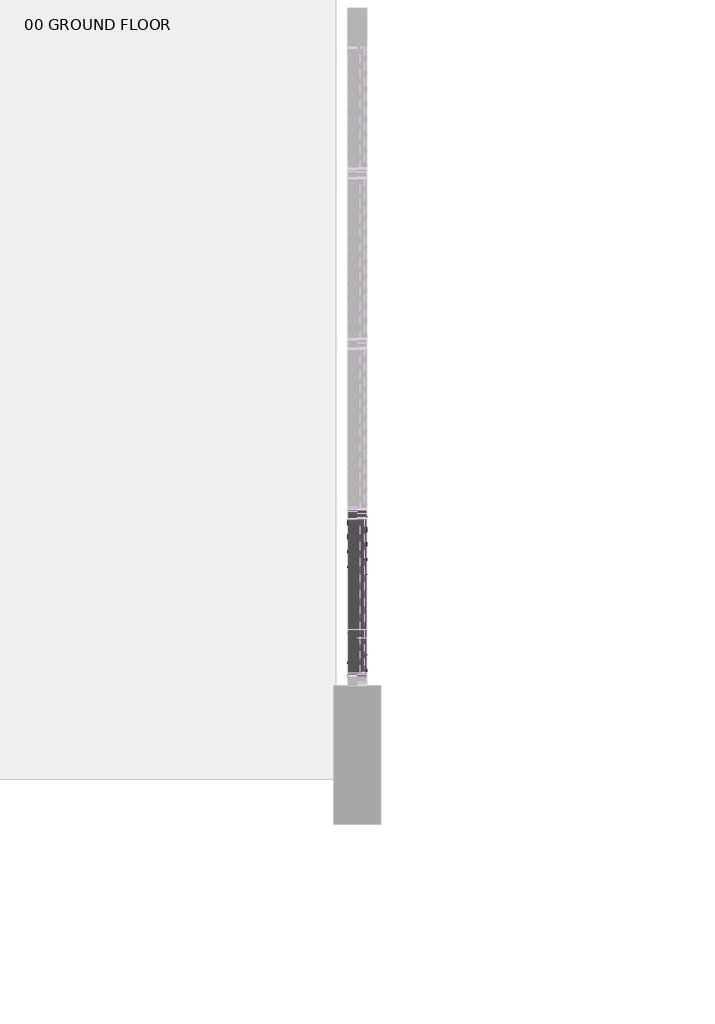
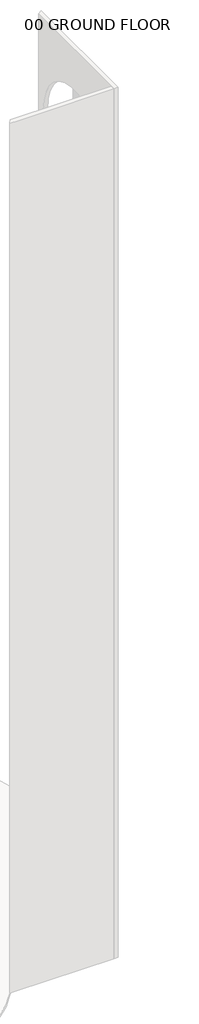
# One storey, part 15 of 33: 81 members, 48 plates.
"""IFC4 building model written with IfcOpenShell, lengths in millimetres."""

from ifc_helpers import new_model, si_unit, origin, place, context, project, spatial, transform, mapped, element, save
from components import member_14f97ceb, member_c70f70ef, member_2b49869a, system_panel_glazed_b0e4ebfd, system_panel_glazed_21ccd27a

model = new_model("IFC4")

# Units and contexts
model_context = context("Model", 3, world=origin())
ifc_project = project(units=[si_unit("LENGTHUNIT", "METRE", prefix="MILLI")], contexts=[model_context])

# Site, building, storey
site = spatial("IfcSite", under=ifc_project)
building = spatial("IfcBuilding", under=site)
storey = spatial("IfcBuildingStorey", under=building, Name="00 GROUND FLOOR", Elevation=0.0)

# Members
placement = place(None, origin())
member_shape = member_14f97ceb(model_context)
element("IfcMember", 1, ObjectType="Rectangular Mullion : 2.5\" x 5\" rectangular", at=placement, inside=storey, context=model_context, shape_type="MappedRepresentation", body=[
    mapped(member_shape, transform((44184.4050515, 1929.0392859, 0.0), x_axis=(0.0, 0.0, -1.0), y_axis=(1.0, 0.0, 0.0), z_axis=(0.0, -1.0, 0.0))),
])
member_2_shape = member_c70f70ef(model_context)
element("IfcMember", 2, ObjectType="Rectangular Mullion : 2.5\" x 5\" rectangular", at=placement, inside=storey, context=model_context, shape_type="MappedRepresentation", body=[
    mapped(member_2_shape, transform((44184.4050515, 1865.5392859, 1219.2), x_axis=(0.0, 0.0, 1.0), y_axis=(1.0, 0.0, 0.0), z_axis=(0.0, 1.0, 0.0))),
])
element("IfcMember", 3, ObjectType="Rectangular Mullion : 2.5\" x 5\" rectangular", at=placement, inside=storey, context=model_context, shape_type="MappedRepresentation", body=[
    mapped(member_2_shape, transform((44184.4050515, 1865.5392859, 2438.4), x_axis=(0.0, 0.0, 1.0), y_axis=(1.0, 0.0, 0.0), z_axis=(0.0, 1.0, 0.0))),
])
element("IfcMember", 4, ObjectType="Rectangular Mullion : 2.5\" x 5\" rectangular", at=placement, inside=storey, context=model_context, shape_type="MappedRepresentation", body=[
    mapped(member_2_shape, transform((44184.4050515, 1865.5392859, 3657.6), x_axis=(0.0, 0.0, 1.0), y_axis=(1.0, 0.0, 0.0), z_axis=(0.0, 1.0, 0.0))),
])
element("IfcMember", 5, ObjectType="Rectangular Mullion : 2.5\" x 5\" rectangular", at=placement, inside=storey, context=model_context, shape_type="MappedRepresentation", body=[
    mapped(member_2_shape, transform((44184.4050515, 1865.5392859, 4876.8), x_axis=(0.0, 0.0, 1.0), y_axis=(1.0, 0.0, 0.0), z_axis=(0.0, 1.0, 0.0))),
])
element("IfcMember", 6, ObjectType="Rectangular Mullion : 2.5\" x 5\" rectangular", at=placement, inside=storey, context=model_context, shape_type="MappedRepresentation", body=[
    mapped(member_2_shape, transform((44184.4050515, 1865.5392859, 6096.0), x_axis=(0.0, 0.0, 1.0), y_axis=(1.0, 0.0, 0.0), z_axis=(0.0, 1.0, 0.0))),
])
element("IfcMember", 7, ObjectType="Rectangular Mullion : 2.5\" x 5\" rectangular", at=placement, inside=storey, context=model_context, shape_type="MappedRepresentation", body=[
    mapped(member_2_shape, transform((44184.4050515, 1865.5392859, 7315.2), x_axis=(0.0, 0.0, 1.0), y_axis=(1.0, 0.0, 0.0), z_axis=(0.0, 1.0, 0.0))),
])
element("IfcMember", 8, ObjectType="Rectangular Mullion : 2.5\" x 5\" rectangular", at=placement, inside=storey, context=model_context, shape_type="MappedRepresentation", body=[
    mapped(member_2_shape, transform((44184.4050515, 1865.5392859, 8534.4), x_axis=(0.0, 0.0, 1.0), y_axis=(1.0, 0.0, 0.0), z_axis=(0.0, 1.0, 0.0))),
])
element("IfcMember", 9, ObjectType="Rectangular Mullion : 2.5\" x 5\" rectangular", at=placement, inside=storey, context=model_context, shape_type="MappedRepresentation", body=[
    mapped(member_2_shape, transform((44184.4050515, 1865.5392859, 9753.6), x_axis=(0.0, 0.0, 1.0), y_axis=(1.0, 0.0, 0.0), z_axis=(0.0, 1.0, 0.0))),
])
element("IfcMember", 10, ObjectType="Rectangular Mullion : 2.5\" x 5\" rectangular", at=placement, inside=storey, context=model_context, shape_type="MappedRepresentation", body=[
    mapped(member_2_shape, transform((44184.4050515, 1865.5392859, 10972.8), x_axis=(0.0, 0.0, 1.0), y_axis=(1.0, 0.0, 0.0), z_axis=(0.0, 1.0, 0.0))),
])
element("IfcMember", 11, ObjectType="Rectangular Mullion : 2.5\" x 5\" rectangular", at=placement, inside=storey, context=model_context, shape_type="MappedRepresentation", body=[
    mapped(member_2_shape, transform((44184.4050515, 1865.5392859, 12192.0), x_axis=(0.0, 0.0, 1.0), y_axis=(1.0, 0.0, 0.0), z_axis=(0.0, 1.0, 0.0))),
])
element("IfcMember", 12, ObjectType="Rectangular Mullion : 2.5\" x 5\" rectangular", at=placement, inside=storey, context=model_context, shape_type="MappedRepresentation", body=[
    mapped(member_2_shape, transform((44184.4050515, 1865.5392859, 13411.2), x_axis=(0.0, 0.0, 1.0), y_axis=(1.0, 0.0, 0.0), z_axis=(0.0, 1.0, 0.0))),
])
element("IfcMember", 13, ObjectType="Rectangular Mullion : 2.5\" x 5\" rectangular", at=placement, inside=storey, context=model_context, shape_type="MappedRepresentation", body=[
    mapped(member_2_shape, transform((44184.4050515, 1865.5392859, 14630.4), x_axis=(0.0, 0.0, 1.0), y_axis=(1.0, 0.0, 0.0), z_axis=(0.0, 1.0, 0.0))),
])
element("IfcMember", 14, ObjectType="Rectangular Mullion : 2.5\" x 5\" rectangular", at=placement, inside=storey, context=model_context, shape_type="MappedRepresentation", body=[
    mapped(member_2_shape, transform((44184.4050515, 1865.5392859, 15849.6), x_axis=(0.0, 0.0, 1.0), y_axis=(1.0, 0.0, 0.0), z_axis=(0.0, 1.0, 0.0))),
])
element("IfcMember", 15, ObjectType="Rectangular Mullion : 2.5\" x 5\" rectangular", at=placement, inside=storey, context=model_context, shape_type="MappedRepresentation", body=[
    mapped(member_2_shape, transform((44184.4050515, 1865.5392859, 17068.8), x_axis=(0.0, 0.0, 1.0), y_axis=(1.0, 0.0, 0.0), z_axis=(0.0, 1.0, 0.0))),
])
element("IfcMember", 16, ObjectType="Rectangular Mullion : 2.5\" x 5\" rectangular", at=placement, inside=storey, context=model_context, shape_type="MappedRepresentation", body=[
    mapped(member_2_shape, transform((44184.4050515, 1865.5392859, 18288.0), x_axis=(0.0, 0.0, 1.0), y_axis=(1.0, 0.0, 0.0), z_axis=(0.0, 1.0, 0.0))),
])
element("IfcMember", 17, ObjectType="Rectangular Mullion : 2.5\" x 5\" rectangular", at=placement, inside=storey, context=model_context, shape_type="MappedRepresentation", body=[
    mapped(member_2_shape, transform((44184.4050515, 1865.5392859, 19507.2), x_axis=(0.0, 0.0, 1.0), y_axis=(1.0, 0.0, 0.0), z_axis=(0.0, 1.0, 0.0))),
])
element("IfcMember", 18, ObjectType="Rectangular Mullion : 2.5\" x 5\" rectangular", at=placement, inside=storey, context=model_context, shape_type="MappedRepresentation", body=[
    mapped(member_2_shape, transform((44184.4050515, 1865.5392859, 20726.4), x_axis=(0.0, 0.0, 1.0), y_axis=(1.0, 0.0, 0.0), z_axis=(0.0, 1.0, 0.0))),
])
element("IfcMember", 19, ObjectType="Rectangular Mullion : 2.5\" x 5\" rectangular", at=placement, inside=storey, context=model_context, shape_type="MappedRepresentation", body=[
    mapped(member_2_shape, transform((44184.4050515, 1865.5392859, 21945.6), x_axis=(0.0, 0.0, 1.0), y_axis=(1.0, 0.0, 0.0), z_axis=(0.0, 1.0, 0.0))),
])
element("IfcMember", 20, ObjectType="Rectangular Mullion : 2.5\" x 5\" rectangular", at=placement, inside=storey, context=model_context, shape_type="MappedRepresentation", body=[
    mapped(member_2_shape, transform((44184.4050515, 1865.5392859, 23164.8), x_axis=(0.0, 0.0, 1.0), y_axis=(1.0, 0.0, 0.0), z_axis=(0.0, 1.0, 0.0))),
])
element("IfcMember", 21, ObjectType="Rectangular Mullion : 2.5\" x 5\" rectangular", at=placement, inside=storey, context=model_context, shape_type="MappedRepresentation", body=[
    mapped(member_2_shape, transform((44184.4050515, 1865.5392859, 24384.0), x_axis=(0.0, 0.0, 1.0), y_axis=(1.0, 0.0, 0.0), z_axis=(0.0, 1.0, 0.0))),
])
element("IfcMember", 22, ObjectType="Rectangular Mullion : 2.5\" x 5\" rectangular", at=placement, inside=storey, context=model_context, shape_type="MappedRepresentation", body=[
    mapped(member_2_shape, transform((44184.4050515, 1865.5392859, 25603.2), x_axis=(0.0, 0.0, 1.0), y_axis=(1.0, 0.0, 0.0), z_axis=(0.0, 1.0, 0.0))),
])
element("IfcMember", 23, ObjectType="Rectangular Mullion : 2.5\" x 5\" rectangular", at=placement, inside=storey, context=model_context, shape_type="MappedRepresentation", body=[
    mapped(member_2_shape, transform((44184.4050515, 1865.5392859, 26822.4), x_axis=(0.0, 0.0, 1.0), y_axis=(1.0, 0.0, 0.0), z_axis=(0.0, 1.0, 0.0))),
])
element("IfcMember", 24, ObjectType="Rectangular Mullion : 2.5\" x 5\" rectangular", at=placement, inside=storey, context=model_context, shape_type="MappedRepresentation", body=[
    mapped(member_2_shape, transform((44184.4050515, 1865.5392859, 28041.6), x_axis=(0.0, 0.0, 1.0), y_axis=(1.0, 0.0, 0.0), z_axis=(0.0, 1.0, 0.0))),
])
element("IfcMember", 25, ObjectType="Rectangular Mullion : 2.5\" x 5\" rectangular", at=placement, inside=storey, context=model_context, shape_type="MappedRepresentation", body=[
    mapped(member_2_shape, transform((44184.4050515, 1865.5392859, 29260.8), x_axis=(0.0, 0.0, 1.0), y_axis=(1.0, 0.0, 0.0), z_axis=(0.0, 1.0, 0.0))),
])
element("IfcMember", 26, ObjectType="Rectangular Mullion : 2.5\" x 5\" rectangular", at=placement, inside=storey, context=model_context, shape_type="MappedRepresentation", body=[
    mapped(member_2_shape, transform((44184.4050515, 1865.5392859, 30480.0), x_axis=(0.0, 0.0, 1.0), y_axis=(1.0, 0.0, 0.0), z_axis=(0.0, 1.0, 0.0))),
])
element("IfcMember", 27, ObjectType="Rectangular Mullion : 2.5\" x 5\" rectangular", at=placement, inside=storey, context=model_context, shape_type="MappedRepresentation", body=[
    mapped(member_2_shape, transform((44184.4050515, 1865.5392859, 31699.2), x_axis=(0.0, 0.0, 1.0), y_axis=(1.0, 0.0, 0.0), z_axis=(0.0, 1.0, 0.0))),
])
element("IfcMember", 28, ObjectType="Rectangular Mullion : 2.5\" x 5\" rectangular", at=placement, inside=storey, context=model_context, shape_type="MappedRepresentation", body=[
    mapped(member_2_shape, transform((44184.4050515, 1865.5392859, 32918.4), x_axis=(0.0, 0.0, 1.0), y_axis=(1.0, 0.0, 0.0), z_axis=(0.0, 1.0, 0.0))),
])
element("IfcMember", 29, ObjectType="Rectangular Mullion : 2.5\" x 5\" rectangular", at=placement, inside=storey, context=model_context, shape_type="MappedRepresentation", body=[
    mapped(member_2_shape, transform((44184.4050515, 1865.5392859, 34137.6), x_axis=(0.0, 0.0, 1.0), y_axis=(1.0, 0.0, 0.0), z_axis=(0.0, 1.0, 0.0))),
])
element("IfcMember", 30, ObjectType="Rectangular Mullion : 2.5\" x 5\" rectangular", at=placement, inside=storey, context=model_context, shape_type="MappedRepresentation", body=[
    mapped(member_2_shape, transform((44184.4050515, 1865.5392859, 35356.8), x_axis=(0.0, 0.0, 1.0), y_axis=(1.0, 0.0, 0.0), z_axis=(0.0, 1.0, 0.0))),
])
element("IfcMember", 31, ObjectType="Rectangular Mullion : 2.5\" x 5\" rectangular", at=placement, inside=storey, context=model_context, shape_type="MappedRepresentation", body=[
    mapped(member_2_shape, transform((44184.4050515, 1865.5392859, 36576.0), x_axis=(0.0, 0.0, 1.0), y_axis=(1.0, 0.0, 0.0), z_axis=(0.0, 1.0, 0.0))),
])
element("IfcMember", 32, ObjectType="Rectangular Mullion : 2.5\" x 5\" rectangular", at=placement, inside=storey, context=model_context, shape_type="MappedRepresentation", body=[
    mapped(member_2_shape, transform((44184.4050515, 1865.5392859, 37795.2), x_axis=(0.0, 0.0, 1.0), y_axis=(1.0, 0.0, 0.0), z_axis=(0.0, 1.0, 0.0))),
])
element("IfcMember", 33, ObjectType="Rectangular Mullion : 2.5\" x 5\" rectangular", at=placement, inside=storey, context=model_context, shape_type="MappedRepresentation", body=[
    mapped(member_2_shape, transform((44184.4050515, 1865.5392859, 39014.4), x_axis=(0.0, 0.0, 1.0), y_axis=(1.0, 0.0, 0.0), z_axis=(0.0, 1.0, 0.0))),
])
element("IfcMember", 34, ObjectType="Rectangular Mullion : 2.5\" x 5\" rectangular", at=placement, inside=storey, context=model_context, shape_type="MappedRepresentation", body=[
    mapped(member_2_shape, transform((44184.4050515, 1865.5392859, 40233.6), x_axis=(0.0, 0.0, 1.0), y_axis=(1.0, 0.0, 0.0), z_axis=(0.0, 1.0, 0.0))),
])
element("IfcMember", 35, ObjectType="Rectangular Mullion : 2.5\" x 5\" rectangular", at=placement, inside=storey, context=model_context, shape_type="MappedRepresentation", body=[
    mapped(member_2_shape, transform((44184.4050515, 1865.5392859, 41452.8), x_axis=(0.0, 0.0, 1.0), y_axis=(1.0, 0.0, 0.0), z_axis=(0.0, 1.0, 0.0))),
])
element("IfcMember", 36, ObjectType="Rectangular Mullion : 2.5\" x 5\" rectangular", at=placement, inside=storey, context=model_context, shape_type="MappedRepresentation", body=[
    mapped(member_2_shape, transform((44184.4050515, 1865.5392859, 42672.0), x_axis=(0.0, 0.0, 1.0), y_axis=(1.0, 0.0, 0.0), z_axis=(0.0, 1.0, 0.0))),
])
element("IfcMember", 37, ObjectType="Rectangular Mullion : 2.5\" x 5\" rectangular", at=placement, inside=storey, context=model_context, shape_type="MappedRepresentation", body=[
    mapped(member_2_shape, transform((44184.4050515, 1865.5392859, 43891.2), x_axis=(0.0, 0.0, 1.0), y_axis=(1.0, 0.0, 0.0), z_axis=(0.0, 1.0, 0.0))),
])
element("IfcMember", 38, ObjectType="Rectangular Mullion : 2.5\" x 5\" rectangular", at=placement, inside=storey, context=model_context, shape_type="MappedRepresentation", body=[
    mapped(member_2_shape, transform((44184.4050515, 1865.5392859, 45110.4), x_axis=(0.0, 0.0, 1.0), y_axis=(1.0, 0.0, 0.0), z_axis=(0.0, 1.0, 0.0))),
])
member_3_shape = member_2b49869a(model_context)
element("IfcMember", 39, ObjectType="Rectangular Mullion : 2.5\" x 5\" rectangular", at=placement, inside=storey, context=model_context, shape_type="MappedRepresentation", body=[
    mapped(member_3_shape, transform((44184.4050515, 1897.2892859, 0.0), x_axis=(0.0, 1.0, 0.0), y_axis=(1.0, 0.0, 0.0), z_axis=(0.0, 0.0, -1.0))),
])
element("IfcMember", 40, ObjectType="Rectangular Mullion : 2.5\" x 5\" rectangular", at=placement, inside=storey, context=model_context, shape_type="MappedRepresentation", body=[
    mapped(member_3_shape, transform((44184.4050515, 1897.2892859, 1219.2), x_axis=(0.0, 1.0, 0.0), y_axis=(1.0, 0.0, 0.0), z_axis=(0.0, 0.0, -1.0))),
])
element("IfcMember", 41, ObjectType="Rectangular Mullion : 2.5\" x 5\" rectangular", at=placement, inside=storey, context=model_context, shape_type="MappedRepresentation", body=[
    mapped(member_3_shape, transform((44184.4050515, 1897.2892859, 2438.4), x_axis=(0.0, 1.0, 0.0), y_axis=(1.0, 0.0, 0.0), z_axis=(0.0, 0.0, -1.0))),
])
element("IfcMember", 42, ObjectType="Rectangular Mullion : 2.5\" x 5\" rectangular", at=placement, inside=storey, context=model_context, shape_type="MappedRepresentation", body=[
    mapped(member_3_shape, transform((44184.4050515, 1897.2892859, 3657.6), x_axis=(0.0, 1.0, 0.0), y_axis=(1.0, 0.0, 0.0), z_axis=(0.0, 0.0, -1.0))),
])
element("IfcMember", 43, ObjectType="Rectangular Mullion : 2.5\" x 5\" rectangular", at=placement, inside=storey, context=model_context, shape_type="MappedRepresentation", body=[
    mapped(member_3_shape, transform((44184.4050515, 1897.2892859, 4876.8), x_axis=(0.0, 1.0, 0.0), y_axis=(1.0, 0.0, 0.0), z_axis=(0.0, 0.0, -1.0))),
])
element("IfcMember", 44, ObjectType="Rectangular Mullion : 2.5\" x 5\" rectangular", at=placement, inside=storey, context=model_context, shape_type="MappedRepresentation", body=[
    mapped(member_3_shape, transform((44184.4050515, 1897.2892859, 6096.0), x_axis=(0.0, 1.0, 0.0), y_axis=(1.0, 0.0, 0.0), z_axis=(0.0, 0.0, -1.0))),
])
element("IfcMember", 45, ObjectType="Rectangular Mullion : 2.5\" x 5\" rectangular", at=placement, inside=storey, context=model_context, shape_type="MappedRepresentation", body=[
    mapped(member_3_shape, transform((44184.4050515, 1897.2892859, 7315.2), x_axis=(0.0, 1.0, 0.0), y_axis=(1.0, 0.0, 0.0), z_axis=(0.0, 0.0, -1.0))),
])
element("IfcMember", 46, ObjectType="Rectangular Mullion : 2.5\" x 5\" rectangular", at=placement, inside=storey, context=model_context, shape_type="MappedRepresentation", body=[
    mapped(member_3_shape, transform((44184.4050515, 1897.2892859, 8534.4), x_axis=(0.0, 1.0, 0.0), y_axis=(1.0, 0.0, 0.0), z_axis=(0.0, 0.0, -1.0))),
])
element("IfcMember", 47, ObjectType="Rectangular Mullion : 2.5\" x 5\" rectangular", at=placement, inside=storey, context=model_context, shape_type="MappedRepresentation", body=[
    mapped(member_3_shape, transform((44184.4050515, 1897.2892859, 9753.6), x_axis=(0.0, 1.0, 0.0), y_axis=(1.0, 0.0, 0.0), z_axis=(0.0, 0.0, -1.0))),
])
element("IfcMember", 48, ObjectType="Rectangular Mullion : 2.5\" x 5\" rectangular", at=placement, inside=storey, context=model_context, shape_type="MappedRepresentation", body=[
    mapped(member_3_shape, transform((44184.4050515, 1897.2892859, 10972.8), x_axis=(0.0, 1.0, 0.0), y_axis=(1.0, 0.0, 0.0), z_axis=(0.0, 0.0, -1.0))),
])
element("IfcMember", 49, ObjectType="Rectangular Mullion : 2.5\" x 5\" rectangular", at=placement, inside=storey, context=model_context, shape_type="MappedRepresentation", body=[
    mapped(member_3_shape, transform((44184.4050515, 1897.2892859, 12192.0), x_axis=(0.0, 1.0, 0.0), y_axis=(1.0, 0.0, 0.0), z_axis=(0.0, 0.0, -1.0))),
])
element("IfcMember", 50, ObjectType="Rectangular Mullion : 2.5\" x 5\" rectangular", at=placement, inside=storey, context=model_context, shape_type="MappedRepresentation", body=[
    mapped(member_3_shape, transform((44184.4050515, 1897.2892859, 13411.2), x_axis=(0.0, 1.0, 0.0), y_axis=(1.0, 0.0, 0.0), z_axis=(0.0, 0.0, -1.0))),
])
element("IfcMember", 51, ObjectType="Rectangular Mullion : 2.5\" x 5\" rectangular", at=placement, inside=storey, context=model_context, shape_type="MappedRepresentation", body=[
    mapped(member_3_shape, transform((44184.4050515, 1897.2892859, 14630.4), x_axis=(0.0, 1.0, 0.0), y_axis=(1.0, 0.0, 0.0), z_axis=(0.0, 0.0, -1.0))),
])
element("IfcMember", 52, ObjectType="Rectangular Mullion : 2.5\" x 5\" rectangular", at=placement, inside=storey, context=model_context, shape_type="MappedRepresentation", body=[
    mapped(member_3_shape, transform((44184.4050515, 1897.2892859, 15849.6), x_axis=(0.0, 1.0, 0.0), y_axis=(1.0, 0.0, 0.0), z_axis=(0.0, 0.0, -1.0))),
])
element("IfcMember", 53, ObjectType="Rectangular Mullion : 2.5\" x 5\" rectangular", at=placement, inside=storey, context=model_context, shape_type="MappedRepresentation", body=[
    mapped(member_3_shape, transform((44184.4050515, 1897.2892859, 17068.8), x_axis=(0.0, 1.0, 0.0), y_axis=(1.0, 0.0, 0.0), z_axis=(0.0, 0.0, -1.0))),
])
element("IfcMember", 54, ObjectType="Rectangular Mullion : 2.5\" x 5\" rectangular", at=placement, inside=storey, context=model_context, shape_type="MappedRepresentation", body=[
    mapped(member_3_shape, transform((44184.4050515, 1897.2892859, 18288.0), x_axis=(0.0, 1.0, 0.0), y_axis=(1.0, 0.0, 0.0), z_axis=(0.0, 0.0, -1.0))),
])
element("IfcMember", 55, ObjectType="Rectangular Mullion : 2.5\" x 5\" rectangular", at=placement, inside=storey, context=model_context, shape_type="MappedRepresentation", body=[
    mapped(member_3_shape, transform((44184.4050515, 1897.2892859, 19507.2), x_axis=(0.0, 1.0, 0.0), y_axis=(1.0, 0.0, 0.0), z_axis=(0.0, 0.0, -1.0))),
])
element("IfcMember", 56, ObjectType="Rectangular Mullion : 2.5\" x 5\" rectangular", at=placement, inside=storey, context=model_context, shape_type="MappedRepresentation", body=[
    mapped(member_3_shape, transform((44184.4050515, 1897.2892859, 20726.4), x_axis=(0.0, 1.0, 0.0), y_axis=(1.0, 0.0, 0.0), z_axis=(0.0, 0.0, -1.0))),
])
element("IfcMember", 57, ObjectType="Rectangular Mullion : 2.5\" x 5\" rectangular", at=placement, inside=storey, context=model_context, shape_type="MappedRepresentation", body=[
    mapped(member_3_shape, transform((44184.4050515, 1897.2892859, 21945.6), x_axis=(0.0, 1.0, 0.0), y_axis=(1.0, 0.0, 0.0), z_axis=(0.0, 0.0, -1.0))),
])
element("IfcMember", 58, ObjectType="Rectangular Mullion : 2.5\" x 5\" rectangular", at=placement, inside=storey, context=model_context, shape_type="MappedRepresentation", body=[
    mapped(member_3_shape, transform((44184.4050515, 1897.2892859, 23164.8), x_axis=(0.0, 1.0, 0.0), y_axis=(1.0, 0.0, 0.0), z_axis=(0.0, 0.0, -1.0))),
])
element("IfcMember", 59, ObjectType="Rectangular Mullion : 2.5\" x 5\" rectangular", at=placement, inside=storey, context=model_context, shape_type="MappedRepresentation", body=[
    mapped(member_3_shape, transform((44184.4050515, 1897.2892859, 24384.0), x_axis=(0.0, 1.0, 0.0), y_axis=(1.0, 0.0, 0.0), z_axis=(0.0, 0.0, -1.0))),
])
element("IfcMember", 60, ObjectType="Rectangular Mullion : 2.5\" x 5\" rectangular", at=placement, inside=storey, context=model_context, shape_type="MappedRepresentation", body=[
    mapped(member_3_shape, transform((44184.4050515, 1897.2892859, 25603.2), x_axis=(0.0, 1.0, 0.0), y_axis=(1.0, 0.0, 0.0), z_axis=(0.0, 0.0, -1.0))),
])
element("IfcMember", 61, ObjectType="Rectangular Mullion : 2.5\" x 5\" rectangular", at=placement, inside=storey, context=model_context, shape_type="MappedRepresentation", body=[
    mapped(member_3_shape, transform((44184.4050515, 1897.2892859, 26822.4), x_axis=(0.0, 1.0, 0.0), y_axis=(1.0, 0.0, 0.0), z_axis=(0.0, 0.0, -1.0))),
])
element("IfcMember", 62, ObjectType="Rectangular Mullion : 2.5\" x 5\" rectangular", at=placement, inside=storey, context=model_context, shape_type="MappedRepresentation", body=[
    mapped(member_3_shape, transform((44184.4050515, 1897.2892859, 28041.6), x_axis=(0.0, 1.0, 0.0), y_axis=(1.0, 0.0, 0.0), z_axis=(0.0, 0.0, -1.0))),
])
element("IfcMember", 63, ObjectType="Rectangular Mullion : 2.5\" x 5\" rectangular", at=placement, inside=storey, context=model_context, shape_type="MappedRepresentation", body=[
    mapped(member_3_shape, transform((44184.4050515, 1897.2892859, 29260.8), x_axis=(0.0, 1.0, 0.0), y_axis=(1.0, 0.0, 0.0), z_axis=(0.0, 0.0, -1.0))),
])
element("IfcMember", 64, ObjectType="Rectangular Mullion : 2.5\" x 5\" rectangular", at=placement, inside=storey, context=model_context, shape_type="MappedRepresentation", body=[
    mapped(member_3_shape, transform((44184.4050515, 1897.2892859, 30480.0), x_axis=(0.0, 1.0, 0.0), y_axis=(1.0, 0.0, 0.0), z_axis=(0.0, 0.0, -1.0))),
])
element("IfcMember", 65, ObjectType="Rectangular Mullion : 2.5\" x 5\" rectangular", at=placement, inside=storey, context=model_context, shape_type="MappedRepresentation", body=[
    mapped(member_3_shape, transform((44184.4050515, 1897.2892859, 31699.2), x_axis=(0.0, 1.0, 0.0), y_axis=(1.0, 0.0, 0.0), z_axis=(0.0, 0.0, -1.0))),
])
element("IfcMember", 66, ObjectType="Rectangular Mullion : 2.5\" x 5\" rectangular", at=placement, inside=storey, context=model_context, shape_type="MappedRepresentation", body=[
    mapped(member_3_shape, transform((44184.4050515, 1897.2892859, 32918.4), x_axis=(0.0, 1.0, 0.0), y_axis=(1.0, 0.0, 0.0), z_axis=(0.0, 0.0, -1.0))),
])
element("IfcMember", 67, ObjectType="Rectangular Mullion : 2.5\" x 5\" rectangular", at=placement, inside=storey, context=model_context, shape_type="MappedRepresentation", body=[
    mapped(member_3_shape, transform((44184.4050515, 1897.2892859, 34137.6), x_axis=(0.0, 1.0, 0.0), y_axis=(1.0, 0.0, 0.0), z_axis=(0.0, 0.0, -1.0))),
])
element("IfcMember", 68, ObjectType="Rectangular Mullion : 2.5\" x 5\" rectangular", at=placement, inside=storey, context=model_context, shape_type="MappedRepresentation", body=[
    mapped(member_3_shape, transform((44184.4050515, 1897.2892859, 35356.8), x_axis=(0.0, 1.0, 0.0), y_axis=(1.0, 0.0, 0.0), z_axis=(0.0, 0.0, -1.0))),
])
element("IfcMember", 69, ObjectType="Rectangular Mullion : 2.5\" x 5\" rectangular", at=placement, inside=storey, context=model_context, shape_type="MappedRepresentation", body=[
    mapped(member_3_shape, transform((44184.4050515, 1897.2892859, 36576.0), x_axis=(0.0, 1.0, 0.0), y_axis=(1.0, 0.0, 0.0), z_axis=(0.0, 0.0, -1.0))),
])
element("IfcMember", 70, ObjectType="Rectangular Mullion : 2.5\" x 5\" rectangular", at=placement, inside=storey, context=model_context, shape_type="MappedRepresentation", body=[
    mapped(member_3_shape, transform((44184.4050515, 1897.2892859, 37795.2), x_axis=(0.0, 1.0, 0.0), y_axis=(1.0, 0.0, 0.0), z_axis=(0.0, 0.0, -1.0))),
])
element("IfcMember", 71, ObjectType="Rectangular Mullion : 2.5\" x 5\" rectangular", at=placement, inside=storey, context=model_context, shape_type="MappedRepresentation", body=[
    mapped(member_3_shape, transform((44184.4050515, 1897.2892859, 39014.4), x_axis=(0.0, 1.0, 0.0), y_axis=(1.0, 0.0, 0.0), z_axis=(0.0, 0.0, -1.0))),
])
element("IfcMember", 72, ObjectType="Rectangular Mullion : 2.5\" x 5\" rectangular", at=placement, inside=storey, context=model_context, shape_type="MappedRepresentation", body=[
    mapped(member_3_shape, transform((44184.4050515, 1897.2892859, 40233.6), x_axis=(0.0, 1.0, 0.0), y_axis=(1.0, 0.0, 0.0), z_axis=(0.0, 0.0, -1.0))),
])
element("IfcMember", 73, ObjectType="Rectangular Mullion : 2.5\" x 5\" rectangular", at=placement, inside=storey, context=model_context, shape_type="MappedRepresentation", body=[
    mapped(member_3_shape, transform((44184.4050515, 1897.2892859, 41452.8), x_axis=(0.0, 1.0, 0.0), y_axis=(1.0, 0.0, 0.0), z_axis=(0.0, 0.0, -1.0))),
])
element("IfcMember", 74, ObjectType="Rectangular Mullion : 2.5\" x 5\" rectangular", at=placement, inside=storey, context=model_context, shape_type="MappedRepresentation", body=[
    mapped(member_3_shape, transform((44184.4050515, 1897.2892859, 42672.0), x_axis=(0.0, 1.0, 0.0), y_axis=(1.0, 0.0, 0.0), z_axis=(0.0, 0.0, -1.0))),
])
element("IfcMember", 75, ObjectType="Rectangular Mullion : 2.5\" x 5\" rectangular", at=placement, inside=storey, context=model_context, shape_type="MappedRepresentation", body=[
    mapped(member_3_shape, transform((44184.4050515, 1897.2892859, 43891.2), x_axis=(0.0, 1.0, 0.0), y_axis=(1.0, 0.0, 0.0), z_axis=(0.0, 0.0, -1.0))),
])
element("IfcMember", 76, ObjectType="Rectangular Mullion : 2.5\" x 5\" rectangular", at=placement, inside=storey, context=model_context, shape_type="MappedRepresentation", body=[
    mapped(member_3_shape, transform((44184.4050515, 1897.2892859, 45110.4), x_axis=(0.0, 1.0, 0.0), y_axis=(1.0, 0.0, 0.0), z_axis=(0.0, 0.0, -1.0))),
])
element("IfcMember", 77, ObjectType="Rectangular Mullion : 2.5\" x 5\" rectangular", at=placement, inside=storey, context=model_context, shape_type="MappedRepresentation", body=[
    mapped(member_3_shape, transform((44184.4050515, 1897.2892859, 46329.6), x_axis=(0.0, 1.0, 0.0), y_axis=(1.0, 0.0, 0.0), z_axis=(0.0, 0.0, -1.0))),
])
element("IfcMember", 78, ObjectType="Rectangular Mullion : 2.5\" x 5\" rectangular", at=placement, inside=storey, context=model_context, shape_type="MappedRepresentation", body=[
    mapped(member_3_shape, transform((44184.4050515, 1897.2892859, 47548.8), x_axis=(0.0, 1.0, 0.0), y_axis=(1.0, 0.0, 0.0), z_axis=(0.0, 0.0, -1.0))),
])
element("IfcMember", 79, ObjectType="Rectangular Mullion : 2.5\" x 5\" rectangular", at=placement, inside=storey, context=model_context, shape_type="MappedRepresentation", body=[
    mapped(member_3_shape, transform((44184.4050515, 1897.2892859, 48768.0), x_axis=(0.0, 1.0, 0.0), y_axis=(1.0, 0.0, 0.0), z_axis=(0.0, 0.0, -1.0))),
])
element("IfcMember", 80, ObjectType="Rectangular Mullion : 2.5\" x 5\" rectangular", at=placement, inside=storey, context=model_context, shape_type="MappedRepresentation", body=[
    mapped(member_3_shape, transform((44184.4050515, 1897.2892859, 49987.2), x_axis=(0.0, 1.0, 0.0), y_axis=(1.0, 0.0, 0.0), z_axis=(0.0, 0.0, -1.0))),
])
element("IfcMember", 81, ObjectType="Rectangular Mullion : 2.5\" x 5\" rectangular", at=placement, inside=storey, context=model_context, shape_type="MappedRepresentation", body=[
    mapped(member_3_shape, transform((44184.4050515, 1897.2892859, 51206.4), x_axis=(0.0, 1.0, 0.0), y_axis=(1.0, 0.0, 0.0), z_axis=(0.0, 0.0, -1.0))),
])

# Plates
system_panel_glazed_shape = system_panel_glazed_b0e4ebfd(model_context)
element("IfcPlate", 82, ObjectType="System Panel : Glazed", at=placement, inside=storey, context=model_context, shape_type="MappedRepresentation", body=[
    mapped(system_panel_glazed_shape, transform((44184.4050515, 1347.107143, 1250.95), x_axis=(0.0, 1.0, 0.0), y_axis=(-1.0, 0.0, 0.0), z_axis=(0.0, 0.0, 1.0))),
])
element("IfcPlate", 83, ObjectType="System Panel : Glazed", at=placement, inside=storey, context=model_context, shape_type="MappedRepresentation", body=[
    mapped(system_panel_glazed_shape, transform((44184.4050515, 1347.107143, 2470.15), x_axis=(0.0, 1.0, 0.0), y_axis=(-1.0, 0.0, 0.0), z_axis=(0.0, 0.0, 1.0))),
])
element("IfcPlate", 84, ObjectType="System Panel : Glazed", at=placement, inside=storey, context=model_context, shape_type="MappedRepresentation", body=[
    mapped(system_panel_glazed_shape, transform((44184.4050515, 1347.107143, 3689.35), x_axis=(0.0, 1.0, 0.0), y_axis=(-1.0, 0.0, 0.0), z_axis=(0.0, 0.0, 1.0))),
])
element("IfcPlate", 85, ObjectType="System Panel : Glazed", at=placement, inside=storey, context=model_context, shape_type="MappedRepresentation", body=[
    mapped(system_panel_glazed_shape, transform((44184.4050515, 1347.107143, 4908.55), x_axis=(0.0, 1.0, 0.0), y_axis=(-1.0, 0.0, 0.0), z_axis=(0.0, 0.0, 1.0))),
])
element("IfcPlate", 86, ObjectType="System Panel : Glazed", at=placement, inside=storey, context=model_context, shape_type="MappedRepresentation", body=[
    mapped(system_panel_glazed_shape, transform((44184.4050515, 1347.107143, 6127.75), x_axis=(0.0, 1.0, 0.0), y_axis=(-1.0, 0.0, 0.0), z_axis=(0.0, 0.0, 1.0))),
])
element("IfcPlate", 87, ObjectType="System Panel : Glazed", at=placement, inside=storey, context=model_context, shape_type="MappedRepresentation", body=[
    mapped(system_panel_glazed_shape, transform((44184.4050515, 1347.107143, 7346.95), x_axis=(0.0, 1.0, 0.0), y_axis=(-1.0, 0.0, 0.0), z_axis=(0.0, 0.0, 1.0))),
])
element("IfcPlate", 88, ObjectType="System Panel : Glazed", at=placement, inside=storey, context=model_context, shape_type="MappedRepresentation", body=[
    mapped(system_panel_glazed_shape, transform((44184.4050515, 1347.107143, 8566.15), x_axis=(0.0, 1.0, 0.0), y_axis=(-1.0, 0.0, 0.0), z_axis=(0.0, 0.0, 1.0))),
])
element("IfcPlate", 89, ObjectType="System Panel : Glazed", at=placement, inside=storey, context=model_context, shape_type="MappedRepresentation", body=[
    mapped(system_panel_glazed_shape, transform((44184.4050515, 1347.107143, 9785.35), x_axis=(0.0, 1.0, 0.0), y_axis=(-1.0, 0.0, 0.0), z_axis=(0.0, 0.0, 1.0))),
])
element("IfcPlate", 90, ObjectType="System Panel : Glazed", at=placement, inside=storey, context=model_context, shape_type="MappedRepresentation", body=[
    mapped(system_panel_glazed_shape, transform((44184.4050515, 1347.107143, 11004.55), x_axis=(0.0, 1.0, 0.0), y_axis=(-1.0, 0.0, 0.0), z_axis=(0.0, 0.0, 1.0))),
])
element("IfcPlate", 91, ObjectType="System Panel : Glazed", at=placement, inside=storey, context=model_context, shape_type="MappedRepresentation", body=[
    mapped(system_panel_glazed_shape, transform((44184.4050515, 1347.107143, 12223.75), x_axis=(0.0, 1.0, 0.0), y_axis=(-1.0, 0.0, 0.0), z_axis=(0.0, 0.0, 1.0))),
])
element("IfcPlate", 92, ObjectType="System Panel : Glazed", at=placement, inside=storey, context=model_context, shape_type="MappedRepresentation", body=[
    mapped(system_panel_glazed_shape, transform((44184.4050515, 1347.107143, 13442.95), x_axis=(0.0, 1.0, 0.0), y_axis=(-1.0, 0.0, 0.0), z_axis=(0.0, 0.0, 1.0))),
])
element("IfcPlate", 93, ObjectType="System Panel : Glazed", at=placement, inside=storey, context=model_context, shape_type="MappedRepresentation", body=[
    mapped(system_panel_glazed_shape, transform((44184.4050515, 1347.107143, 14662.15), x_axis=(0.0, 1.0, 0.0), y_axis=(-1.0, 0.0, 0.0), z_axis=(0.0, 0.0, 1.0))),
])
element("IfcPlate", 94, ObjectType="System Panel : Glazed", at=placement, inside=storey, context=model_context, shape_type="MappedRepresentation", body=[
    mapped(system_panel_glazed_shape, transform((44184.4050515, 1347.107143, 15881.35), x_axis=(0.0, 1.0, 0.0), y_axis=(-1.0, 0.0, 0.0), z_axis=(0.0, 0.0, 1.0))),
])
element("IfcPlate", 95, ObjectType="System Panel : Glazed", at=placement, inside=storey, context=model_context, shape_type="MappedRepresentation", body=[
    mapped(system_panel_glazed_shape, transform((44184.4050515, 1347.107143, 17100.55), x_axis=(0.0, 1.0, 0.0), y_axis=(-1.0, 0.0, 0.0), z_axis=(0.0, 0.0, 1.0))),
])
element("IfcPlate", 96, ObjectType="System Panel : Glazed", at=placement, inside=storey, context=model_context, shape_type="MappedRepresentation", body=[
    mapped(system_panel_glazed_shape, transform((44184.4050515, 1347.107143, 18319.75), x_axis=(0.0, 1.0, 0.0), y_axis=(-1.0, 0.0, 0.0), z_axis=(0.0, 0.0, 1.0))),
])
element("IfcPlate", 97, ObjectType="System Panel : Glazed", at=placement, inside=storey, context=model_context, shape_type="MappedRepresentation", body=[
    mapped(system_panel_glazed_shape, transform((44184.4050515, 1347.107143, 19538.95), x_axis=(0.0, 1.0, 0.0), y_axis=(-1.0, 0.0, 0.0), z_axis=(0.0, 0.0, 1.0))),
])
element("IfcPlate", 98, ObjectType="System Panel : Glazed", at=placement, inside=storey, context=model_context, shape_type="MappedRepresentation", body=[
    mapped(system_panel_glazed_shape, transform((44184.4050515, 1347.107143, 20758.15), x_axis=(0.0, 1.0, 0.0), y_axis=(-1.0, 0.0, 0.0), z_axis=(0.0, 0.0, 1.0))),
])
element("IfcPlate", 99, ObjectType="System Panel : Glazed", at=placement, inside=storey, context=model_context, shape_type="MappedRepresentation", body=[
    mapped(system_panel_glazed_shape, transform((44184.4050515, 1347.107143, 21977.35), x_axis=(0.0, 1.0, 0.0), y_axis=(-1.0, 0.0, 0.0), z_axis=(0.0, 0.0, 1.0))),
])
element("IfcPlate", 100, ObjectType="System Panel : Glazed", at=placement, inside=storey, context=model_context, shape_type="MappedRepresentation", body=[
    mapped(system_panel_glazed_shape, transform((44184.4050515, 1347.107143, 23196.55), x_axis=(0.0, 1.0, 0.0), y_axis=(-1.0, 0.0, 0.0), z_axis=(0.0, 0.0, 1.0))),
])
element("IfcPlate", 101, ObjectType="System Panel : Glazed", at=placement, inside=storey, context=model_context, shape_type="MappedRepresentation", body=[
    mapped(system_panel_glazed_shape, transform((44184.4050515, 1347.107143, 24415.75), x_axis=(0.0, 1.0, 0.0), y_axis=(-1.0, 0.0, 0.0), z_axis=(0.0, 0.0, 1.0))),
])
element("IfcPlate", 102, ObjectType="System Panel : Glazed", at=placement, inside=storey, context=model_context, shape_type="MappedRepresentation", body=[
    mapped(system_panel_glazed_shape, transform((44184.4050515, 1347.107143, 25634.95), x_axis=(0.0, 1.0, 0.0), y_axis=(-1.0, 0.0, 0.0), z_axis=(0.0, 0.0, 1.0))),
])
element("IfcPlate", 103, ObjectType="System Panel : Glazed", at=placement, inside=storey, context=model_context, shape_type="MappedRepresentation", body=[
    mapped(system_panel_glazed_shape, transform((44184.4050515, 1347.107143, 26854.15), x_axis=(0.0, 1.0, 0.0), y_axis=(-1.0, 0.0, 0.0), z_axis=(0.0, 0.0, 1.0))),
])
element("IfcPlate", 104, ObjectType="System Panel : Glazed", at=placement, inside=storey, context=model_context, shape_type="MappedRepresentation", body=[
    mapped(system_panel_glazed_shape, transform((44184.4050515, 1347.107143, 28073.35), x_axis=(0.0, 1.0, 0.0), y_axis=(-1.0, 0.0, 0.0), z_axis=(0.0, 0.0, 1.0))),
])
element("IfcPlate", 105, ObjectType="System Panel : Glazed", at=placement, inside=storey, context=model_context, shape_type="MappedRepresentation", body=[
    mapped(system_panel_glazed_shape, transform((44184.4050515, 1347.107143, 29292.55), x_axis=(0.0, 1.0, 0.0), y_axis=(-1.0, 0.0, 0.0), z_axis=(0.0, 0.0, 1.0))),
])
element("IfcPlate", 106, ObjectType="System Panel : Glazed", at=placement, inside=storey, context=model_context, shape_type="MappedRepresentation", body=[
    mapped(system_panel_glazed_shape, transform((44184.4050515, 1347.107143, 30511.75), x_axis=(0.0, 1.0, 0.0), y_axis=(-1.0, 0.0, 0.0), z_axis=(0.0, 0.0, 1.0))),
])
element("IfcPlate", 107, ObjectType="System Panel : Glazed", at=placement, inside=storey, context=model_context, shape_type="MappedRepresentation", body=[
    mapped(system_panel_glazed_shape, transform((44184.4050515, 1347.107143, 31730.95), x_axis=(0.0, 1.0, 0.0), y_axis=(-1.0, 0.0, 0.0), z_axis=(0.0, 0.0, 1.0))),
])
element("IfcPlate", 108, ObjectType="System Panel : Glazed", at=placement, inside=storey, context=model_context, shape_type="MappedRepresentation", body=[
    mapped(system_panel_glazed_shape, transform((44184.4050515, 1347.107143, 32950.15), x_axis=(0.0, 1.0, 0.0), y_axis=(-1.0, 0.0, 0.0), z_axis=(0.0, 0.0, 1.0))),
])
element("IfcPlate", 109, ObjectType="System Panel : Glazed", at=placement, inside=storey, context=model_context, shape_type="MappedRepresentation", body=[
    mapped(system_panel_glazed_shape, transform((44184.4050515, 1347.107143, 34169.35), x_axis=(0.0, 1.0, 0.0), y_axis=(-1.0, 0.0, 0.0), z_axis=(0.0, 0.0, 1.0))),
])
element("IfcPlate", 110, ObjectType="System Panel : Glazed", at=placement, inside=storey, context=model_context, shape_type="MappedRepresentation", body=[
    mapped(system_panel_glazed_shape, transform((44184.4050515, 1347.107143, 35388.55), x_axis=(0.0, 1.0, 0.0), y_axis=(-1.0, 0.0, 0.0), z_axis=(0.0, 0.0, 1.0))),
])
element("IfcPlate", 111, ObjectType="System Panel : Glazed", at=placement, inside=storey, context=model_context, shape_type="MappedRepresentation", body=[
    mapped(system_panel_glazed_shape, transform((44184.4050515, 1347.107143, 36607.75), x_axis=(0.0, 1.0, 0.0), y_axis=(-1.0, 0.0, 0.0), z_axis=(0.0, 0.0, 1.0))),
])
element("IfcPlate", 112, ObjectType="System Panel : Glazed", at=placement, inside=storey, context=model_context, shape_type="MappedRepresentation", body=[
    mapped(system_panel_glazed_shape, transform((44184.4050515, 1347.107143, 37826.95), x_axis=(0.0, 1.0, 0.0), y_axis=(-1.0, 0.0, 0.0), z_axis=(0.0, 0.0, 1.0))),
])
element("IfcPlate", 113, ObjectType="System Panel : Glazed", at=placement, inside=storey, context=model_context, shape_type="MappedRepresentation", body=[
    mapped(system_panel_glazed_shape, transform((44184.4050515, 1347.107143, 39046.15), x_axis=(0.0, 1.0, 0.0), y_axis=(-1.0, 0.0, 0.0), z_axis=(0.0, 0.0, 1.0))),
])
element("IfcPlate", 114, ObjectType="System Panel : Glazed", at=placement, inside=storey, context=model_context, shape_type="MappedRepresentation", body=[
    mapped(system_panel_glazed_shape, transform((44184.4050515, 1347.107143, 40265.35), x_axis=(0.0, 1.0, 0.0), y_axis=(-1.0, 0.0, 0.0), z_axis=(0.0, 0.0, 1.0))),
])
element("IfcPlate", 115, ObjectType="System Panel : Glazed", at=placement, inside=storey, context=model_context, shape_type="MappedRepresentation", body=[
    mapped(system_panel_glazed_shape, transform((44184.4050515, 1347.107143, 41484.55), x_axis=(0.0, 1.0, 0.0), y_axis=(-1.0, 0.0, 0.0), z_axis=(0.0, 0.0, 1.0))),
])
element("IfcPlate", 116, ObjectType="System Panel : Glazed", at=placement, inside=storey, context=model_context, shape_type="MappedRepresentation", body=[
    mapped(system_panel_glazed_shape, transform((44184.4050515, 1347.107143, 42703.75), x_axis=(0.0, 1.0, 0.0), y_axis=(-1.0, 0.0, 0.0), z_axis=(0.0, 0.0, 1.0))),
])
element("IfcPlate", 117, ObjectType="System Panel : Glazed", at=placement, inside=storey, context=model_context, shape_type="MappedRepresentation", body=[
    mapped(system_panel_glazed_shape, transform((44184.4050515, 1347.107143, 43922.95), x_axis=(0.0, 1.0, 0.0), y_axis=(-1.0, 0.0, 0.0), z_axis=(0.0, 0.0, 1.0))),
])
element("IfcPlate", 118, ObjectType="System Panel : Glazed", at=placement, inside=storey, context=model_context, shape_type="MappedRepresentation", body=[
    mapped(system_panel_glazed_shape, transform((44184.4050515, 1347.107143, 45142.15), x_axis=(0.0, 1.0, 0.0), y_axis=(-1.0, 0.0, 0.0), z_axis=(0.0, 0.0, 1.0))),
])
element("IfcPlate", 119, ObjectType="System Panel : Glazed", at=placement, inside=storey, context=model_context, shape_type="MappedRepresentation", body=[
    mapped(system_panel_glazed_shape, transform((44184.4050515, 1347.107143, 46361.35), x_axis=(0.0, 1.0, 0.0), y_axis=(-1.0, 0.0, 0.0), z_axis=(0.0, 0.0, 1.0))),
])
element("IfcPlate", 120, ObjectType="System Panel : Glazed", at=placement, inside=storey, context=model_context, shape_type="MappedRepresentation", body=[
    mapped(system_panel_glazed_shape, transform((44184.4050515, 1347.107143, 47580.55), x_axis=(0.0, 1.0, 0.0), y_axis=(-1.0, 0.0, 0.0), z_axis=(0.0, 0.0, 1.0))),
])
element("IfcPlate", 121, ObjectType="System Panel : Glazed", at=placement, inside=storey, context=model_context, shape_type="MappedRepresentation", body=[
    mapped(system_panel_glazed_shape, transform((44184.4050515, 1347.107143, 48799.75), x_axis=(0.0, 1.0, 0.0), y_axis=(-1.0, 0.0, 0.0), z_axis=(0.0, 0.0, 1.0))),
])
element("IfcPlate", 122, ObjectType="System Panel : Glazed", at=placement, inside=storey, context=model_context, shape_type="MappedRepresentation", body=[
    mapped(system_panel_glazed_shape, transform((44184.4050515, 1347.107143, 50018.95), x_axis=(0.0, 1.0, 0.0), y_axis=(-1.0, 0.0, 0.0), z_axis=(0.0, 0.0, 1.0))),
])
element("IfcPlate", 123, ObjectType="System Panel : Glazed", at=placement, inside=storey, context=model_context, shape_type="MappedRepresentation", body=[
    mapped(system_panel_glazed_shape, transform((44184.4050515, 1347.107143, 51238.15), x_axis=(0.0, 1.0, 0.0), y_axis=(-1.0, 0.0, 0.0), z_axis=(0.0, 0.0, 1.0))),
])
element("IfcPlate", 124, ObjectType="System Panel : Glazed", at=placement, inside=storey, context=model_context, shape_type="MappedRepresentation", body=[
    mapped(system_panel_glazed_shape, transform((44184.4050515, 1347.107143, 52457.35), x_axis=(0.0, 1.0, 0.0), y_axis=(-1.0, 0.0, 0.0), z_axis=(0.0, 0.0, 1.0))),
])
element("IfcPlate", 125, ObjectType="System Panel : Glazed", at=placement, inside=storey, context=model_context, shape_type="MappedRepresentation", body=[
    mapped(system_panel_glazed_shape, transform((44184.4050515, 1347.107143, 53676.55), x_axis=(0.0, 1.0, 0.0), y_axis=(-1.0, 0.0, 0.0), z_axis=(0.0, 0.0, 1.0))),
])
element("IfcPlate", 126, ObjectType="System Panel : Glazed", at=placement, inside=storey, context=model_context, shape_type="MappedRepresentation", body=[
    mapped(system_panel_glazed_shape, transform((44184.4050515, 1347.107143, 54895.75), x_axis=(0.0, 1.0, 0.0), y_axis=(-1.0, 0.0, 0.0), z_axis=(0.0, 0.0, 1.0))),
])
element("IfcPlate", 127, ObjectType="System Panel : Glazed", at=placement, inside=storey, context=model_context, shape_type="MappedRepresentation", body=[
    mapped(system_panel_glazed_shape, transform((44184.4050515, 1347.107143, 56114.95), x_axis=(0.0, 1.0, 0.0), y_axis=(-1.0, 0.0, 0.0), z_axis=(0.0, 0.0, 1.0))),
])
element("IfcPlate", 128, ObjectType="System Panel : Glazed", at=placement, inside=storey, context=model_context, shape_type="MappedRepresentation", body=[
    mapped(system_panel_glazed_shape, transform((44184.4050515, 1347.107143, 57334.15), x_axis=(0.0, 1.0, 0.0), y_axis=(-1.0, 0.0, 0.0), z_axis=(0.0, 0.0, 1.0))),
])
system_panel_glazed_2_shape = system_panel_glazed_21ccd27a(model_context)
element("IfcPlate", 129, ObjectType="System Panel : Glazed", at=placement, inside=storey, context=model_context, shape_type="MappedRepresentation", body=[
    mapped(system_panel_glazed_2_shape, transform((44184.4050515, 1347.107143, 58553.35), x_axis=(0.0, 1.0, 0.0), y_axis=(-1.0, 0.0, 0.0), z_axis=(0.0, 0.0, 1.0))),
])

save(model, "model.ifc")
